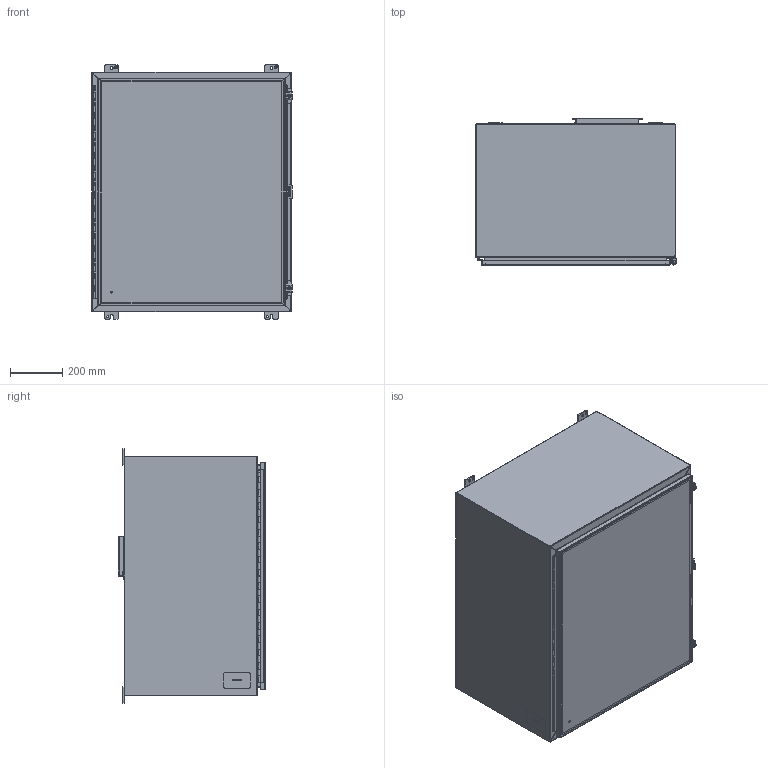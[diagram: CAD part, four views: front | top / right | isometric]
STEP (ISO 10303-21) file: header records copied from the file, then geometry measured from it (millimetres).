
FILE_DESCRIPTION(/* description */ ('Unknown'),/* implementation_level */ '2;1');
FILE_NAME(/* name */ '1418M20LP',/* time_stamp */ '2026-02-20T16:34:53-05:00',/* author */ ('Unknown'),/* organization */ ('Unknown'),/* preprocessor_version */ 'ST-DEVELOPER v18.104',/* originating_system */ 'Solid Edge',/* authorisation */ 'Unknown');
FILE_SCHEMA (('AUTOMOTIVE_DESIGN {1 0 10303 214 3 1 1}'));
Length unit declared in the file: millimetre
Products named in the file (32): 1418M20LP; STD26094; STD21878; COM42780; COM40153-1; COM71780-21; COM40153-2; HNG10620-32C; COM70219_oa_0; PNT11078; COM48491; FET07710; QLB20254; HNG10620-32B; AKT90223; SPR20265; SCC19011; WAF25035; COM42667; KIT90519; WAF25059; NTS166105; KIT90256; LAB30005; NTS165305; NTS16535; BUL10020; QLB30109; PKT99; COM48519; HNG10620-32P
Assembly tree (44 placements, depth 3):
  1418M20LP
    STD26094  x6
    STD21878
    COM42780  x2
    COM40153-1
    COM71780-21
      COM40153-2
      COM71780-21
      STD21878
      HNG10620-32C
      COM70219_oa_0
      PNT11078
    COM48491
    FET07710  x4
    QLB20254
    HNG10620-32B
    AKT90223  x2
      SPR20265
      SCC19011
      WAF25035
      COM42667
    KIT90519
      WAF25059
      NTS166105
    KIT90256
      LAB30005
      NTS165305
      NTS16535
    BUL10020
    QLB30109
    PKT99
    COM48519  x2
    HNG10620-32P
    PNT11078
Bounding box: 765.17 x 561.98 x 971.55 mm (x, y, z)
Volume: 6444407.4 mm3; surface area: 6997809.9 mm2
Topology: 39 solids, 40 shells, 1354 faces, 3489 edges, 2266 vertices
Faces by surface type: plane 886, cylinder 336, bspline 76, cone 28, torus 26, sphere 2
Full cylindrical faces by diameter (mm): 3.175 x1, 4.763 x1, 4.976 x1, 5.41 x2, 6.198 x2, 6.35 x3, 6.731 x2, 7.137 x2, 7.805 x1, 7.938 x4, 8.382 x6, 9.525 x6, 9.906 x2, 11.113 x4, 11.303 x1, 12.7 x2, 16.51 x6, 25.4 x1, 88.9 x1
Entity records: 34384 total; most frequent: CARTESIAN_POINT 9936, ORIENTED_EDGE 4986, DIRECTION 4540, EDGE_CURVE 2493, VERTEX_POINT 1637, LINE 1622, VECTOR 1622, AXIS2_PLACEMENT_3D 1459
